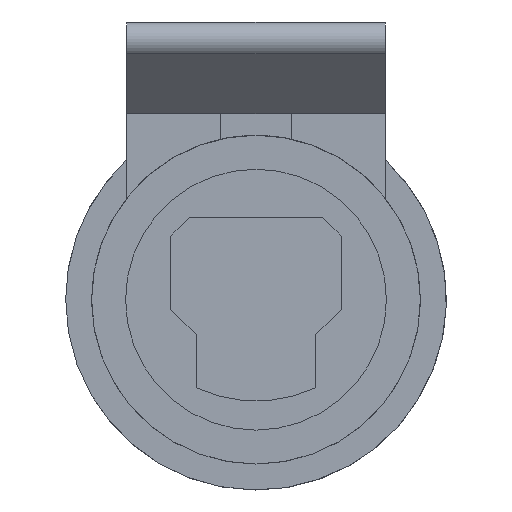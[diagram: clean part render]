
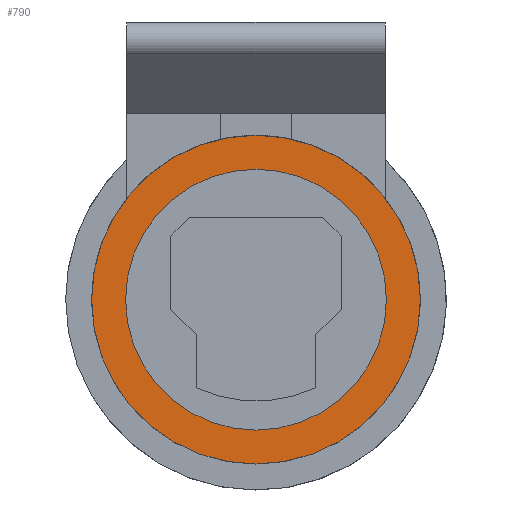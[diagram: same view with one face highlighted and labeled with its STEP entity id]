
A CAD part, left-side view. The second image highlights one B-rep face of the part: STEP entity #790.
In plain terms, the highlighted planar face has unit normal (-1, 0, 0).
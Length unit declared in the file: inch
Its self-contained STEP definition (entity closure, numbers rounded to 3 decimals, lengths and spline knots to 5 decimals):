
#18=FACE_BOUND('',#81,.T.);
#36=FACE_OUTER_BOUND('',#80,.T.);
#80=EDGE_LOOP('',(#552));
#81=EDGE_LOOP('',(#553));
#284=CIRCLE('',#858,0.30875);
#296=CIRCLE('',#873,0.245);
#331=VERTEX_POINT('',#1208);
#347=VERTEX_POINT('',#1247);
#409=EDGE_CURVE('',#331,#331,#284,.T.);
#429=EDGE_CURVE('',#347,#347,#296,.T.);
#552=ORIENTED_EDGE('',*,*,#409,.T.);
#553=ORIENTED_EDGE('',*,*,#429,.T.);
#757=PLANE('',#872);
#790=ADVANCED_FACE('',(#36,#18),#757,.T.);
#858=AXIS2_PLACEMENT_3D('',#1209,#958,#959);
#872=AXIS2_PLACEMENT_3D('',#1246,#994,#995);
#873=AXIS2_PLACEMENT_3D('',#1248,#996,#997);
#958=DIRECTION('center_axis',(-1.,0.,0.));
#959=DIRECTION('ref_axis',(0.,0.,1.));
#994=DIRECTION('center_axis',(-1.,0.,0.));
#995=DIRECTION('ref_axis',(0.,0.,1.));
#996=DIRECTION('center_axis',(1.,0.,0.));
#997=DIRECTION('ref_axis',(0.,0.,1.));
#1208=CARTESIAN_POINT('',(-8.618,0.,-0.30875));
#1209=CARTESIAN_POINT('Origin',(-8.618,0.,
0.));
#1246=CARTESIAN_POINT('Origin',(-8.618,0.30875,0.));
#1247=CARTESIAN_POINT('',(-8.618,0.,-0.245));
#1248=CARTESIAN_POINT('Origin',(-8.618,0.,0.));
